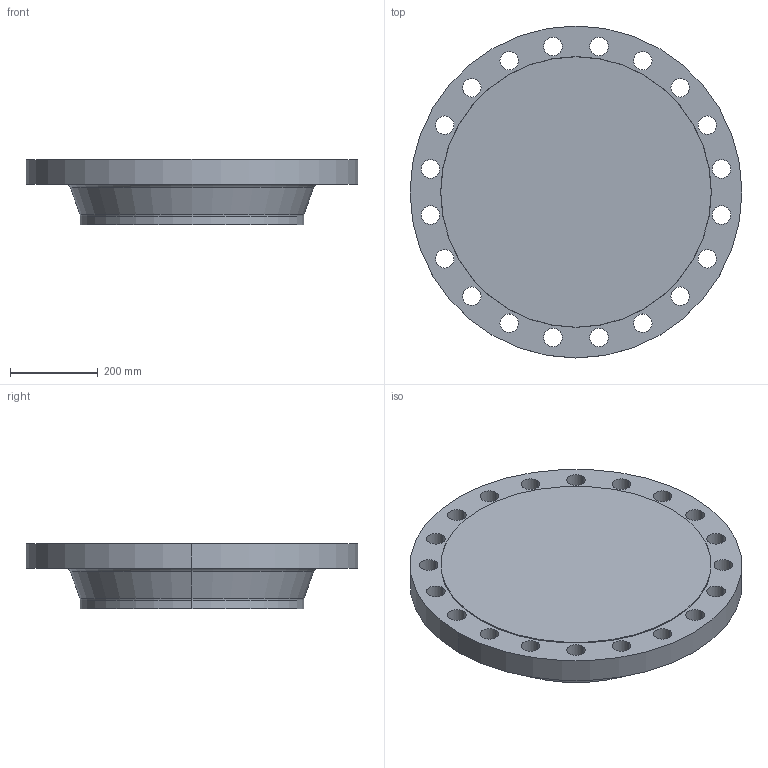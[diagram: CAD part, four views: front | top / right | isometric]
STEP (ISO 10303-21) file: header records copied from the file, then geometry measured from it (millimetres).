
FILE_DESCRIPTION (( 'STEP AP214' ), '1' );
FILE_NAME ('PN40 DN500 Type 21(ii) - Type B Face.STEP', '2018-12-29T04:23:42', ( '' ), ( '' ), 'SwSTEP 2.0', 'SolidWorks 2019', '' );
FILE_SCHEMA (( 'AUTOMOTIVE_DESIGN' ));
Length unit declared in the file: millimetre
Products named in the file (1): PN40 DN500 Type 21(ii) - Type B Face
Bounding box: 755 x 755 x 150 mm (x, y, z)
Volume: 44062228.8 mm3; surface area: 1233733.1 mm2
Topology: 1 solids, 1 shells, 56 faces, 150 edges, 98 vertices
Faces by surface type: cylinder 44, torus 4, cone 4, plane 4
Entity records: 1922 total; most frequent: DIRECTION 366, CARTESIAN_POINT 305, ORIENTED_EDGE 300, AXIS2_PLACEMENT_3D 159, EDGE_CURVE 150, CIRCLE 102, VERTEX_POINT 98, EDGE_LOOP 98
